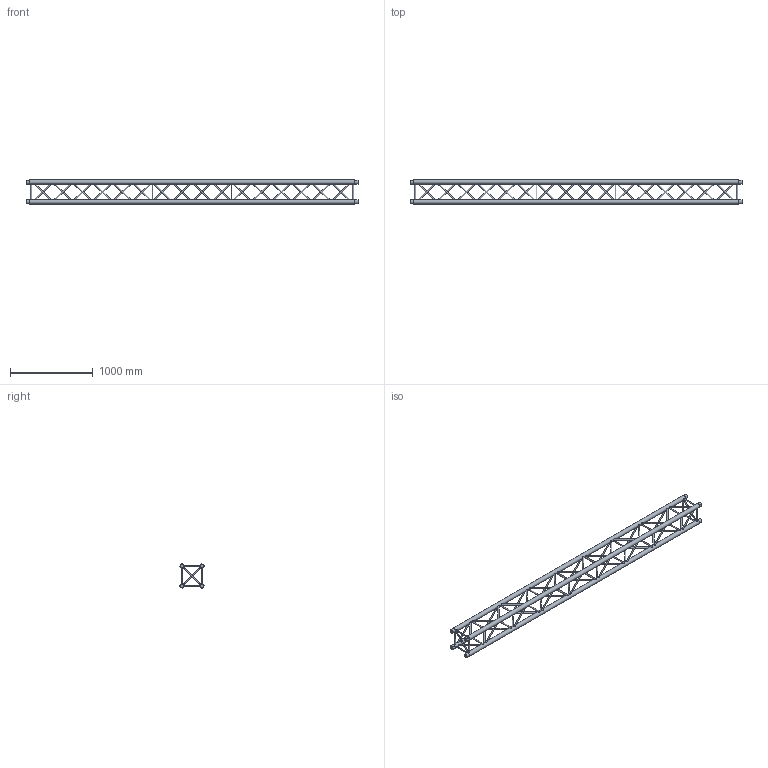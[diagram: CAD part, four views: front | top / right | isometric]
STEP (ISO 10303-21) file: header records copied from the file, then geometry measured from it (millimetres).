
FILE_DESCRIPTION(/* description */ (''),/* implementation_level */ '2;1');
FILE_NAME(/* name */ 'M:\Symbolen\STP\30-er truss\111080153.stp',/* time_stamp */ '2015-01-30T11:03:26+01:00',/* author */ ('Stephan'),/* organization */ (''),/* preprocessor_version */ 'ST-DEVELOPER v15.6',/* originating_system */ 'Autodesk Inventor 2015',/* authorisation */ '');
FILE_SCHEMA (('AUTOMOTIVE_DESIGN { 1 0 10303 214 3 1 1 }'));
Length unit declared in the file: millimetre
Products named in the file (1): 160023744
Bounding box: 4000 x 289.98 x 289.98 mm (x, y, z)
Volume: 28993490.9 mm3; surface area: 3664413 mm2
Topology: 8 solids, 80 shells, 444 faces, 716 edges, 424 vertices
Faces by surface type: plane 320, cylinder 116, cone 8
Full cylindrical faces by diameter (mm): 10 x8, 12 x4, 16 x76, 49.5 x8, 51 x4
Entity records: 11271 total; most frequent: CARTESIAN_POINT 2157, DIRECTION 1738, ORIENTED_EDGE 1472, AXIS2_PLACEMENT_3D 781, EDGE_LOOP 720, EDGE_CURVE 592, STYLED_ITEM 429, FACE_OUTER_BOUND 428
